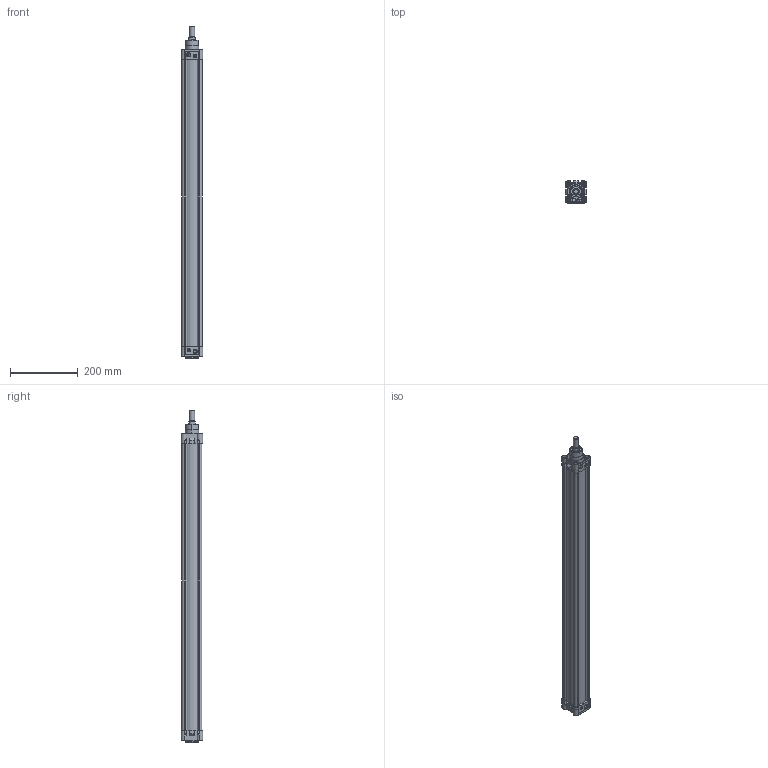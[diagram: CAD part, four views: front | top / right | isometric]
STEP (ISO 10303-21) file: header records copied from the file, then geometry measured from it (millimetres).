
FILE_DESCRIPTION (( 'STEP AP203' ), '1' );
FILE_NAME ('MDNC50x800CYLINDER.STEP', '2016-04-01T09:35:35', ( 'user' ), ( '' ), 'SwSTEP 2.0', 'SolidWorks 2013', '' );
FILE_SCHEMA (( 'CONFIG_CONTROL_DESIGN' ));
Length unit declared in the file: millimetre
Products named in the file (6): 烰 KAPAK  50; MDNC 50X800 BORU; ARKA KAPAK 50; MDNC50x800CYLINDER; Piston Mili 50x800; ORTA PÝSTON 50
Assembly tree (5 placements, depth 2):
  MDNC50x800CYLINDER
    ARKA KAPAK 50
    MDNC 50X800 BORU
    ORTA PÝSTON 50
    烰 KAPAK  50
    Piston Mili 50x800
Bounding box: 64 x 64.3 x 979 mm (x, y, z)
Volume: 1155951.3 mm3; surface area: 576717.2 mm2
Topology: 13 solids, 13 shells, 742 faces, 1933 edges, 1277 vertices
Faces by surface type: cylinder 376, plane 268, cone 60, bspline 34, torus 4
Entity records: 31767 total; most frequent: CARTESIAN_POINT 13827, ORIENTED_EDGE 3858, DIRECTION 3215, EDGE_CURVE 1929, VERTEX_POINT 1277, AXIS2_PLACEMENT_3D 1211, EDGE_LOOP 862, LINE 793
